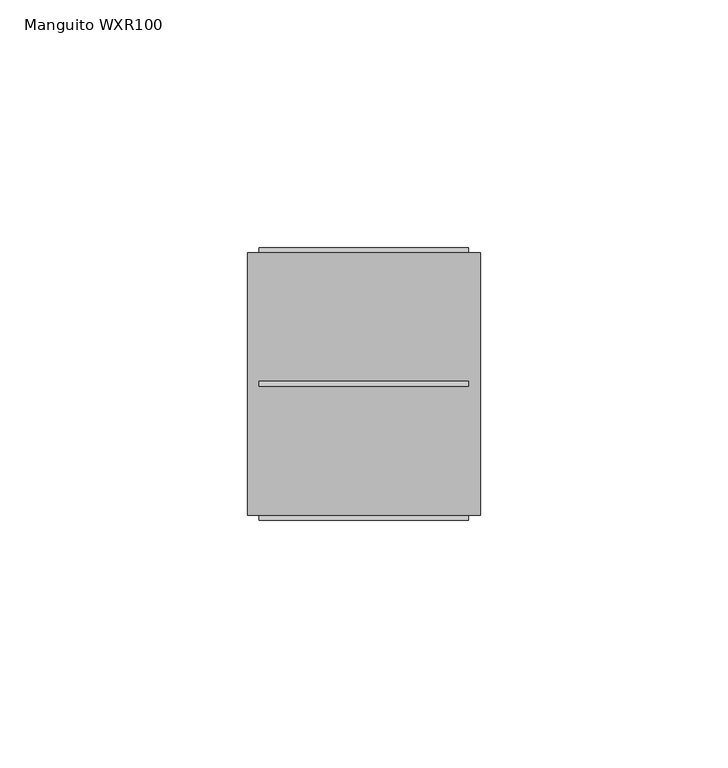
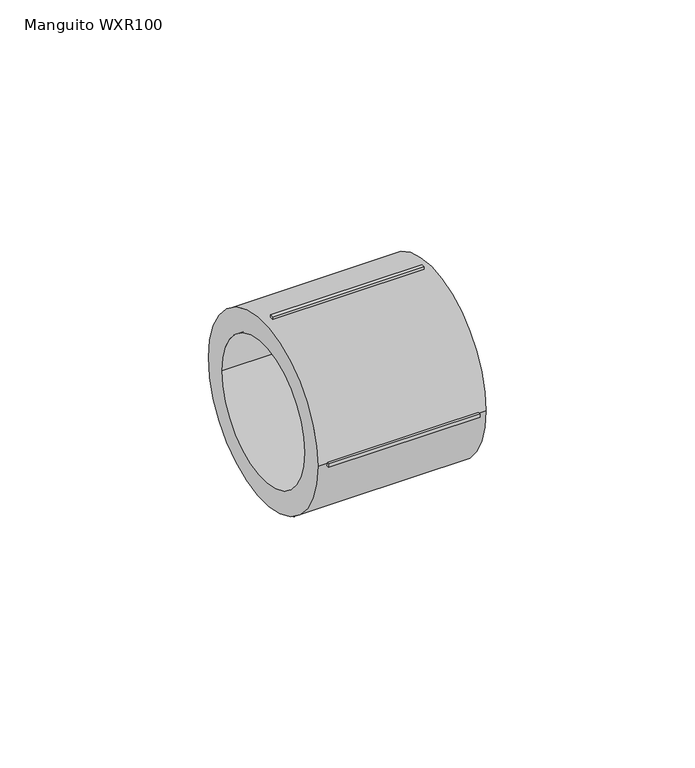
"""IFC4 building model written with IfcOpenShell, lengths in millimetres: pipe fitting geometry, EGB_VASEN_ PPR_Manguito WXR100 : Manguito WXR100."""

from ifc_helpers import new_model, si_unit, point, frame, origin, origin_2d, place, context, project, spatial, polyline, circle_curve, trimmed, segment, composite_curve, outline, extrude, source, transform, mapped, element, save


def manguito_wxr100_3a304eaf(model_context):
    return source(origin(), model_context, "Body", "SweptSolid", [
        extrude(outline(composite_curve([segment(trimmed(circle_curve(origin_2d(), 26.5), [point((-26.5, 0.0))], [point((26.5, 0.0))], False, "CARTESIAN"), True, "CONTINUOUS"), segment(trimmed(circle_curve(origin_2d(), 26.5), [point((26.5, 0.0))], [point((-26.5, 0.0))], False, "CARTESIAN"), True, "CONTINUOUS")], self_intersect=False), holes=[composite_curve([segment(trimmed(circle_curve(origin_2d(), 20.0), [point((-20.0, 0.0))], [point((20.0, 0.0))], True, "CARTESIAN"), True, "CONTINUOUS"), segment(trimmed(circle_curve(origin_2d(), 20.0), [point((20.0, 0.0))], [point((-20.0, 0.0))], True, "CARTESIAN"), True, "CONTINUOUS")], self_intersect=False)]), frame((-23.5, 0.0, 0.0), z_axis=(1.0, 0.0, 0.0), x_axis=(0.0, 1.0, 0.0)), (0.0, 0.0, 1.0), 47.0),
        extrude(outline(polyline([(21.15, 0.5), (21.15, -0.5), (-21.15, -0.5), (-21.15, 0.5), (21.15, 0.5)])), frame((0.0, 0.0, 25.5), z_axis=(0.0, 0.0, 1.0), x_axis=(1.0, 0.0, 0.0)), (0.0, 0.0, 1.0), 2.0),
        extrude(outline(polyline([(21.15, 0.5), (21.15, -0.5), (-21.15, -0.5), (-21.15, 0.5), (21.15, 0.5)])), frame((0.0, 0.0, -27.5), z_axis=(0.0, 0.0, 1.0), x_axis=(1.0, 0.0, 0.0)), (0.0, 0.0, 1.0), 2.0),
        extrude(outline(polyline([(21.15, 27.5), (21.15, 25.5), (-21.15, 25.5), (-21.15, 27.5), (21.15, 27.5)])), frame((0.0, 0.0, -0.5), z_axis=(0.0, 0.0, 1.0), x_axis=(1.0, 0.0, 0.0)), (0.0, 0.0, 1.0), 1.0),
        extrude(outline(polyline([(21.15, -25.5), (21.15, -27.5), (-21.15, -27.5), (-21.15, -25.5), (21.15, -25.5)])), frame((0.0, 0.0, -0.5), z_axis=(0.0, 0.0, 1.0), x_axis=(1.0, 0.0, 0.0)), (0.0, 0.0, 1.0), 1.0),
    ])


if __name__ == "__main__":
    model = new_model("IFC4")
    model_context = context("Model", 3, world=origin())
    ifc_project = project(units=[si_unit("LENGTHUNIT", "METRE", prefix="MILLI")], contexts=[model_context])
    site = spatial("IfcSite", under=ifc_project)
    building = spatial("IfcBuilding", under=site)
    placement = place(None, origin())
    manguito_wxr100_shape = manguito_wxr100_3a304eaf(model_context)
    element("IfcPipeFitting", 1, ObjectType="EGB_VASEN_ PPR_Manguito WXR100 : Manguito WXR100", at=placement, inside=building, context=model_context, shape_type="MappedRepresentation", body=[
        mapped(manguito_wxr100_shape, transform((0.0, 0.0, 0.0), x_axis=(1.0, 0.0, 0.0), y_axis=(0.0, 1.0, 0.0), z_axis=(0.0, 0.0, 1.0))),
    ])
    save(model, "model.ifc")
